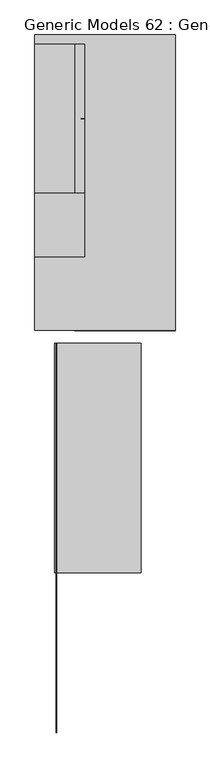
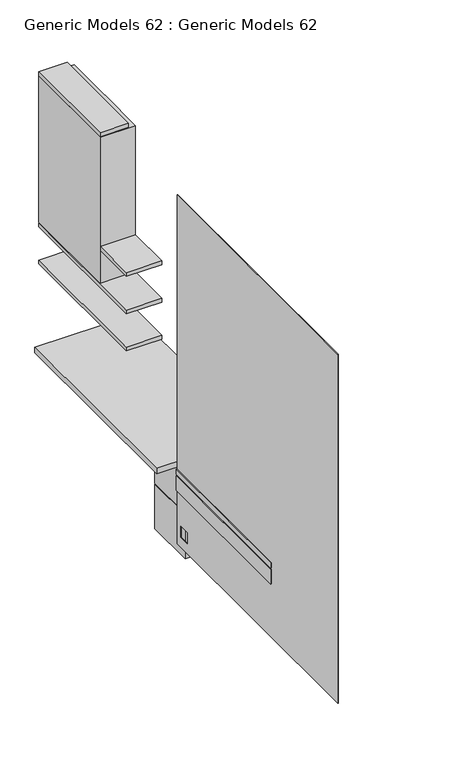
"""IFC4 building model written with IfcOpenShell, lengths in millimetres: proxy geometry, Generic Models 62 : Generic Models 62."""

from ifc_helpers import new_model, si_unit, frame, origin, place, context, project, spatial, polyline, outline, extrude, source, transform, mapped, element, save


def generic_models_62_generic_models_62_01bbf638(model_context):
    return source(origin(), model_context, "Body", "SweptSolid", [
        extrude(outline(polyline([(88335.0362797, 24639.2985284), (88335.0362797, 24268.9082853), (87829.253874, 24268.9082853), (87829.253874, 24639.2985284), (88335.0362797, 24639.2985284)])), frame((0.0, 0.0, 8.9491545), z_axis=(0.0, 0.0, 1.0), x_axis=(1.0, 0.0, 0.0)), (0.0, 0.0, 1.0), 331.0826688),
        extrude(outline(polyline([(24204.2985284, 192.1462474), (22248.487544, 192.1462474), (22248.487544, 2786.293359), (24204.2985284, 2786.293359), (24204.2985284, 192.1462474)]), holes=[polyline([(24077.912544, 269.8425122), (24159.062544, 269.8425122), (24159.062544, 350.9425122), (24077.912544, 350.9425122), (24077.912544, 269.8425122)])]), frame((87735.0362797, 0.0, 0.0), z_axis=(1.0, 0.0, 0.0), x_axis=(0.0, 1.0, 0.0)), (0.0, 0.0, 1.0), 3.3172897),
        extrude(outline(polyline([(88161.9279572, 24204.2985284), (88161.9279572, 23053.5402222), (87729.253874, 23053.5402222), (87729.253874, 24204.2985284), (88161.9279572, 24204.2985284)])), frame((0.0, 0.0, 710.6229357), z_axis=(0.0, 0.0, 1.0), x_axis=(1.0, 0.0, 0.0)), (0.0, 0.0, 1.0), 40.3345154),
        extrude(outline(polyline([(87629.1834516, 24959.2985284), (87629.1834516, 25705.9177626), (87878.6431615, 25705.9177626), (87878.6431615, 25332.6081455), (87858.6431615, 25332.6081455), (87858.6431615, 25328.6081455), (87878.6431615, 25328.6081455), (87878.6431615, 24959.2985284), (87629.1834516, 24959.2985284)])), frame((0.0, 0.0, 1709.4996551), z_axis=(0.0, 0.0, 1.0), x_axis=(1.0, 0.0, 0.0)), (0.0, 0.0, 1.0), 1084.5057756),
        extrude(outline(polyline([(87829.253874, 25705.9177626), (87829.253874, 24959.2985284), (87629.1834516, 24959.2985284), (87629.1834516, 25705.9177626), (87829.253874, 25705.9177626)])), frame((0.0, 0.0, 2799.9967698), z_axis=(0.0, 0.0, 1.0), x_axis=(1.0, 0.0, 0.0)), (0.0, 0.0, 1.0), 27.5511588),
        extrude(outline(polyline([(87878.6431615, 24959.2985284), (87878.6431615, 24639.2985284), (87629.1834516, 24639.2985284), (87629.1834516, 24959.2985284), (87878.6431615, 24959.2985284)])), frame((0.0, 0.0, 1955.1655787), z_axis=(0.0, 0.0, 1.0), x_axis=(1.0, 0.0, 0.0)), (0.0, 0.0, 1.0), 27.5511588),
        extrude(outline(polyline([(87878.6431615, 25705.9177626), (87878.6431615, 24639.2985284), (87629.1834516, 24639.2985284), (87629.1834516, 25705.9177626), (87878.6431615, 25705.9177626)])), frame((0.0, 0.0, 1675.1655787), z_axis=(0.0, 0.0, 1.0), x_axis=(1.0, 0.0, 0.0)), (0.0, 0.0, 1.0), 27.5511588),
        extrude(outline(polyline([(87878.6431615, 25705.9177626), (87878.6431615, 24639.2985284), (87629.1834516, 24639.2985284), (87629.1834516, 25705.9177626), (87878.6431615, 25705.9177626)])), frame((0.0, 0.0, 1400.1655787), z_axis=(0.0, 0.0, 1.0), x_axis=(1.0, 0.0, 0.0)), (0.0, 0.0, 1.0), 27.5511588),
        extrude(outline(polyline([(88335.0362797, 24639.2985284), (88335.0362797, 24268.9082853), (87829.253874, 24268.9082853), (87829.253874, 24639.2985284), (88335.0362797, 24639.2985284)])), frame((0.0, 0.0, 346.5142991), z_axis=(0.0, 0.0, 1.0), x_axis=(1.0, 0.0, 0.0)), (0.0, 0.0, 1.0), 358.5175242),
        extrude(outline(polyline([(88161.9279572, 24204.2985284), (88161.9279572, 23053.5402222), (87729.253874, 23053.5402222), (87729.253874, 24204.2985284), (88161.9279572, 24204.2985284)])), frame((0.0, 0.0, 592.567102), z_axis=(0.0, 0.0, 1.0), x_axis=(1.0, 0.0, 0.0)), (0.0, 0.0, 1.0), 107.6174827),
        extrude(outline(polyline([(88335.0362797, 25752.0620104), (88335.0362797, 24268.9082853), (87629.1834516, 24268.9082853), (87629.1834516, 25752.0620104), (88335.0362797, 25752.0620104)])), frame((0.0, 0.0, 710.6229357), z_axis=(0.0, 0.0, 1.0), x_axis=(1.0, 0.0, 0.0)), (0.0, 0.0, 1.0), 40.3345154),
    ])


if __name__ == "__main__":
    model = new_model("IFC4")
    model_context = context("Model", 3, world=origin())
    ifc_project = project(units=[si_unit("LENGTHUNIT", "METRE", prefix="MILLI")], contexts=[model_context])
    site = spatial("IfcSite", under=ifc_project)
    building = spatial("IfcBuilding", under=site)
    placement = place(None, origin())
    generic_models_62_generic_models_62_shape = generic_models_62_generic_models_62_01bbf638(model_context)
    element("IfcBuildingElementProxy", 1, Name="Generic Models 62 : Generic Models 62", ObjectType="Generic Models 62 : Generic Models 62", at=placement, inside=building, context=model_context, shape_type="MappedRepresentation", body=[
        mapped(generic_models_62_generic_models_62_shape, transform((0.0, 0.0, 0.0), x_axis=(1.0, 0.0, 0.0), y_axis=(0.0, 1.0, 0.0), z_axis=(0.0, 0.0, 1.0))),
    ])
    save(model, "model.ifc")
